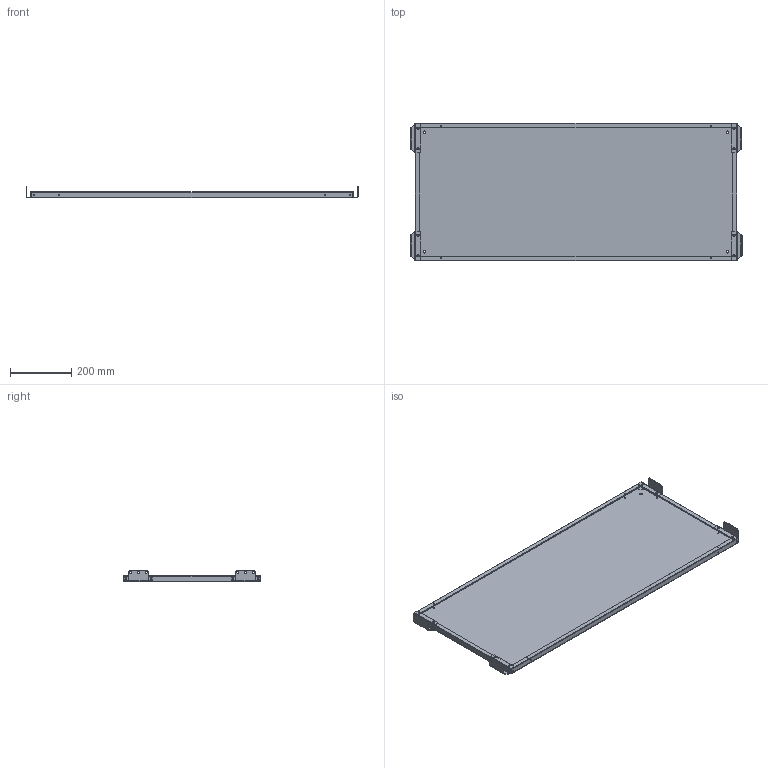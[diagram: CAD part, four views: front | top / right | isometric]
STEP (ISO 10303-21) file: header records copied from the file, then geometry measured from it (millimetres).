
FILE_DESCRIPTION (( 'STEP AP203' ), '1' );
FILE_NAME ('MP 105.45 M Ïàíåëü ìîíòàæíàÿ ñåêöèîííàÿ.STEP', '2013-01-09T13:39:03', ( 'System' ), ( '' ), 'SwSTEP 2.0', 'SolidWorks 2012', '' );
FILE_SCHEMA (( 'CONFIG_CONTROL_DESIGN' ));
Length unit declared in the file: millimetre
Products named in the file (1): MP 105.45 M Ïàíåëü ìîíòàæíàÿ ñåêöèîííàÿ
Bounding box: 1085 x 450 x 37.75 mm (x, y, z)
Volume: 1175128.4 mm3; surface area: 1186030.7 mm2
Topology: 5 solids, 5 shells, 388 faces, 1016 edges, 632 vertices
Faces by surface type: cylinder 196, plane 168, bspline 16, sphere 8
Entity records: 12713 total; most frequent: CARTESIAN_POINT 2749, DIRECTION 2050, ORIENTED_EDGE 2016, EDGE_CURVE 1008, AXIS2_PLACEMENT_3D 733, VERTEX_POINT 632, VECTOR 584, LINE 584
